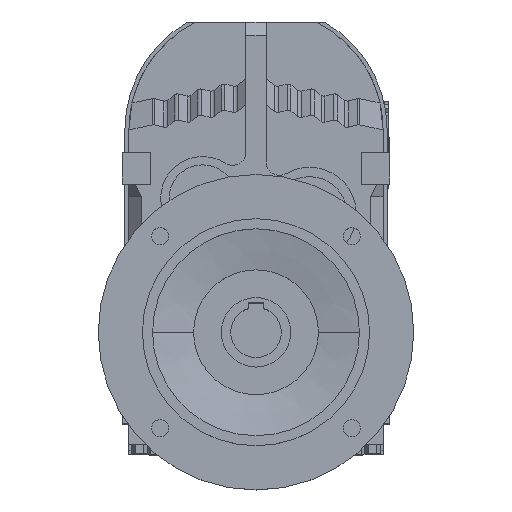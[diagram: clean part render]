
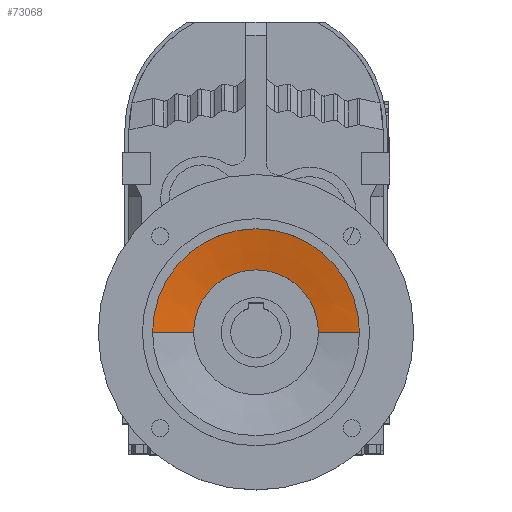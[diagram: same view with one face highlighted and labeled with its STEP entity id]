
A CAD part, top view. The second image highlights one B-rep face of the part: STEP entity #73068.
In plain terms, the highlighted conical face has half-angle 79.54 degrees and reference radius 82 mm.
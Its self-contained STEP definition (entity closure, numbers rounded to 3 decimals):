
#72613 = CYLINDRICAL_SURFACE('',#72614,82.);
#72614 = AXIS2_PLACEMENT_3D('',#72615,#72616,#72617);
#72615 = CARTESIAN_POINT('',(0.,-159.5,0.));
#72616 = DIRECTION('',(0.,0.,-1.));
#72617 = DIRECTION('',(-1.,0.,0.));
#72725 = VERTEX_POINT('',#72726);
#72726 = CARTESIAN_POINT('',(-82.,-159.5,178.5));
#72746 = VERTEX_POINT('',#72747);
#72747 = CARTESIAN_POINT('',(82.,-159.5,178.5));
#72761 = CONICAL_SURFACE('',#72762,82.,1.388);
#72762 = AXIS2_PLACEMENT_3D('',#72763,#72764,#72765);
#72763 = CARTESIAN_POINT('',(0.,-159.5,178.5));
#72764 = DIRECTION('',(0.,0.,1.));
#72765 = DIRECTION('',(1.,0.,0.));
#72818 = EDGE_CURVE('',#72725,#72746,#72819,.T.);
#72819 = SURFACE_CURVE('',#72820,(#72825,#72831),.PCURVE_S1.);
#72820 = CIRCLE('',#72821,82.);
#72821 = AXIS2_PLACEMENT_3D('',#72822,#72823,#72824);
#72822 = CARTESIAN_POINT('',(0.,-159.5,178.5));
#72823 = DIRECTION('',(0.,0.,-1.));
#72824 = DIRECTION('',(-1.,0.,0.));
#72825 = PCURVE('',#72613,#72826);
#72826 = DEFINITIONAL_REPRESENTATION('',(#72827),#72830);
#72827 = B_SPLINE_CURVE_WITH_KNOTS('',1,(#72828,#72829),.UNSPECIFIED.,
  .F.,.F.,(2,2),(0.,3.142),.PIECEWISE_BEZIER_KNOTS.);
#72828 = CARTESIAN_POINT('',(0.,-178.5));
#72829 = CARTESIAN_POINT('',(3.142,-178.5));
#72830 = ( GEOMETRIC_REPRESENTATION_CONTEXT(2) 
PARAMETRIC_REPRESENTATION_CONTEXT() REPRESENTATION_CONTEXT('2D SPACE',''
  ) );
#72831 = PCURVE('',#72832,#72837);
#72832 = CONICAL_SURFACE('',#72833,82.,1.388);
#72833 = AXIS2_PLACEMENT_3D('',#72834,#72835,#72836);
#72834 = CARTESIAN_POINT('',(0.,-159.5,178.5));
#72835 = DIRECTION('',(0.,0.,1.));
#72836 = DIRECTION('',(1.,0.,0.));
#72837 = DEFINITIONAL_REPRESENTATION('',(#72838),#72864);
#72838 = B_SPLINE_CURVE_WITH_KNOTS('',3,(#72839,#72840,#72841,#72842,
    #72843,#72844,#72845,#72846,#72847,#72848,#72849,#72850,#72851,
    #72852,#72853,#72854,#72855,#72856,#72857,#72858,#72859,#72860,
    #72861,#72862,#72863),.UNSPECIFIED.,.F.,.F.,(4,1,1,1,1,1,1,1,1,1,1,1
    ,1,1,1,1,1,1,1,1,1,1,4),(0.,0.143,0.286,
    0.428,0.571,0.714,0.857,
    1.,1.142,1.285,1.428,
    1.571,1.714,1.856,1.999,
    2.142,2.285,2.428,2.57,
    2.713,2.856,2.999,3.142),
  .QUASI_UNIFORM_KNOTS.);
#72839 = CARTESIAN_POINT('',(3.142,0.));
#72840 = CARTESIAN_POINT('',(3.094,0.));
#72841 = CARTESIAN_POINT('',(2.999,0.));
#72842 = CARTESIAN_POINT('',(2.856,0.));
#72843 = CARTESIAN_POINT('',(2.713,0.));
#72844 = CARTESIAN_POINT('',(2.57,0.));
#72845 = CARTESIAN_POINT('',(2.428,0.));
#72846 = CARTESIAN_POINT('',(2.285,0.));
#72847 = CARTESIAN_POINT('',(2.142,0.));
#72848 = CARTESIAN_POINT('',(1.999,0.));
#72849 = CARTESIAN_POINT('',(1.856,0.));
#72850 = CARTESIAN_POINT('',(1.714,0.));
#72851 = CARTESIAN_POINT('',(1.571,0.));
#72852 = CARTESIAN_POINT('',(1.428,0.));
#72853 = CARTESIAN_POINT('',(1.285,0.));
#72854 = CARTESIAN_POINT('',(1.142,0.));
#72855 = CARTESIAN_POINT('',(1.,0.));
#72856 = CARTESIAN_POINT('',(0.857,0.));
#72857 = CARTESIAN_POINT('',(0.714,0.));
#72858 = CARTESIAN_POINT('',(0.571,0.));
#72859 = CARTESIAN_POINT('',(0.428,0.));
#72860 = CARTESIAN_POINT('',(0.286,0.));
#72861 = CARTESIAN_POINT('',(0.143,0.));
#72862 = CARTESIAN_POINT('',(0.048,0.));
#72863 = CARTESIAN_POINT('',(0.,0.));
#72864 = ( GEOMETRIC_REPRESENTATION_CONTEXT(2) 
PARAMETRIC_REPRESENTATION_CONTEXT() REPRESENTATION_CONTEXT('2D SPACE',''
  ) );
#72979 = VERTEX_POINT('',#72980);
#72980 = CARTESIAN_POINT('',(49.5,-159.5,172.5));
#72981 = VERTEX_POINT('',#72982);
#72982 = CARTESIAN_POINT('',(-49.5,-159.5,172.5));
#73030 = EDGE_CURVE('',#72979,#72746,#73031,.T.);
#73031 = SURFACE_CURVE('',#73032,(#73036,#73042),.PCURVE_S1.);
#73032 = LINE('',#73033,#73034);
#73033 = CARTESIAN_POINT('',(82.,-159.5,178.5));
#73034 = VECTOR('',#73035,1.);
#73035 = DIRECTION('',(0.983,0.,0.182));
#73036 = PCURVE('',#72761,#73037);
#73037 = DEFINITIONAL_REPRESENTATION('',(#73038),#73041);
#73038 = B_SPLINE_CURVE_WITH_KNOTS('',1,(#73039,#73040),.UNSPECIFIED.,
  .F.,.F.,(2,2),(-33.049,0.),.PIECEWISE_BEZIER_KNOTS.);
#73039 = CARTESIAN_POINT('',(6.283,-6.));
#73040 = CARTESIAN_POINT('',(6.283,0.));
#73041 = ( GEOMETRIC_REPRESENTATION_CONTEXT(2) 
PARAMETRIC_REPRESENTATION_CONTEXT() REPRESENTATION_CONTEXT('2D SPACE',''
  ) );
#73042 = PCURVE('',#72832,#73043);
#73043 = DEFINITIONAL_REPRESENTATION('',(#73044),#73047);
#73044 = B_SPLINE_CURVE_WITH_KNOTS('',1,(#73045,#73046),.UNSPECIFIED.,
  .F.,.F.,(2,2),(-33.049,0.),.PIECEWISE_BEZIER_KNOTS.);
#73045 = CARTESIAN_POINT('',(0.,-6.));
#73046 = CARTESIAN_POINT('',(0.,0.));
#73047 = ( GEOMETRIC_REPRESENTATION_CONTEXT(2) 
PARAMETRIC_REPRESENTATION_CONTEXT() REPRESENTATION_CONTEXT('2D SPACE',''
  ) );
#73050 = EDGE_CURVE('',#72981,#72725,#73051,.T.);
#73051 = SURFACE_CURVE('',#73052,(#73056,#73062),.PCURVE_S1.);
#73052 = LINE('',#73053,#73054);
#73053 = CARTESIAN_POINT('',(-82.,-159.5,178.5));
#73054 = VECTOR('',#73055,1.);
#73055 = DIRECTION('',(-0.983,0.,
    0.182));
#73056 = PCURVE('',#72761,#73057);
#73057 = DEFINITIONAL_REPRESENTATION('',(#73058),#73061);
#73058 = B_SPLINE_CURVE_WITH_KNOTS('',1,(#73059,#73060),.UNSPECIFIED.,
  .F.,.F.,(2,2),(-33.049,0.),.PIECEWISE_BEZIER_KNOTS.);
#73059 = CARTESIAN_POINT('',(3.142,-6.));
#73060 = CARTESIAN_POINT('',(3.142,0.));
#73061 = ( GEOMETRIC_REPRESENTATION_CONTEXT(2) 
PARAMETRIC_REPRESENTATION_CONTEXT() REPRESENTATION_CONTEXT('2D SPACE',''
  ) );
#73062 = PCURVE('',#72832,#73063);
#73063 = DEFINITIONAL_REPRESENTATION('',(#73064),#73067);
#73064 = B_SPLINE_CURVE_WITH_KNOTS('',1,(#73065,#73066),.UNSPECIFIED.,
  .F.,.F.,(2,2),(-33.049,0.),.PIECEWISE_BEZIER_KNOTS.);
#73065 = CARTESIAN_POINT('',(3.142,-6.));
#73066 = CARTESIAN_POINT('',(3.142,0.));
#73067 = ( GEOMETRIC_REPRESENTATION_CONTEXT(2) 
PARAMETRIC_REPRESENTATION_CONTEXT() REPRESENTATION_CONTEXT('2D SPACE',''
  ) );
#73068 = ADVANCED_FACE('',(#73069),#72832,.F.);
#73069 = FACE_BOUND('',#73070,.F.);
#73070 = EDGE_LOOP('',(#73071,#73072,#73073,#73074));
#73071 = ORIENTED_EDGE('',*,*,#73050,.T.);
#73072 = ORIENTED_EDGE('',*,*,#72818,.T.);
#73073 = ORIENTED_EDGE('',*,*,#73030,.F.);
#73074 = ORIENTED_EDGE('',*,*,#73075,.F.);
#73075 = EDGE_CURVE('',#72981,#72979,#73076,.T.);
#73076 = SURFACE_CURVE('',#73077,(#73082,#73111),.PCURVE_S1.);
#73077 = CIRCLE('',#73078,49.5);
#73078 = AXIS2_PLACEMENT_3D('',#73079,#73080,#73081);
#73079 = CARTESIAN_POINT('',(0.,-159.5,172.5));
#73080 = DIRECTION('',(0.,0.,-1.));
#73081 = DIRECTION('',(-1.,0.,0.));
#73082 = PCURVE('',#72832,#73083);
#73083 = DEFINITIONAL_REPRESENTATION('',(#73084),#73110);
#73084 = B_SPLINE_CURVE_WITH_KNOTS('',3,(#73085,#73086,#73087,#73088,
    #73089,#73090,#73091,#73092,#73093,#73094,#73095,#73096,#73097,
    #73098,#73099,#73100,#73101,#73102,#73103,#73104,#73105,#73106,
    #73107,#73108,#73109),.UNSPECIFIED.,.F.,.F.,(4,1,1,1,1,1,1,1,1,1,1,1
    ,1,1,1,1,1,1,1,1,1,1,4),(0.,0.143,0.286,
    0.428,0.571,0.714,0.857,
    1.,1.142,1.285,1.428,
    1.571,1.714,1.856,1.999,
    2.142,2.285,2.428,2.57,
    2.713,2.856,2.999,3.142),
  .QUASI_UNIFORM_KNOTS.);
#73085 = CARTESIAN_POINT('',(3.142,-6.));
#73086 = CARTESIAN_POINT('',(3.094,-6.));
#73087 = CARTESIAN_POINT('',(2.999,-6.));
#73088 = CARTESIAN_POINT('',(2.856,-6.));
#73089 = CARTESIAN_POINT('',(2.713,-6.));
#73090 = CARTESIAN_POINT('',(2.57,-6.));
#73091 = CARTESIAN_POINT('',(2.428,-6.));
#73092 = CARTESIAN_POINT('',(2.285,-6.));
#73093 = CARTESIAN_POINT('',(2.142,-6.));
#73094 = CARTESIAN_POINT('',(1.999,-6.));
#73095 = CARTESIAN_POINT('',(1.856,-6.));
#73096 = CARTESIAN_POINT('',(1.714,-6.));
#73097 = CARTESIAN_POINT('',(1.571,-6.));
#73098 = CARTESIAN_POINT('',(1.428,-6.));
#73099 = CARTESIAN_POINT('',(1.285,-6.));
#73100 = CARTESIAN_POINT('',(1.142,-6.));
#73101 = CARTESIAN_POINT('',(1.,-6.));
#73102 = CARTESIAN_POINT('',(0.857,-6.));
#73103 = CARTESIAN_POINT('',(0.714,-6.));
#73104 = CARTESIAN_POINT('',(0.571,-6.));
#73105 = CARTESIAN_POINT('',(0.428,-6.));
#73106 = CARTESIAN_POINT('',(0.286,-6.));
#73107 = CARTESIAN_POINT('',(0.143,-6.));
#73108 = CARTESIAN_POINT('',(0.048,-6.));
#73109 = CARTESIAN_POINT('',(0.,-6.));
#73110 = ( GEOMETRIC_REPRESENTATION_CONTEXT(2) 
PARAMETRIC_REPRESENTATION_CONTEXT() REPRESENTATION_CONTEXT('2D SPACE',''
  ) );
#73111 = PCURVE('',#73112,#73117);
#73112 = CYLINDRICAL_SURFACE('',#73113,49.5);
#73113 = AXIS2_PLACEMENT_3D('',#73114,#73115,#73116);
#73114 = CARTESIAN_POINT('',(0.,-159.5,0.));
#73115 = DIRECTION('',(0.,0.,-1.));
#73116 = DIRECTION('',(-1.,0.,0.));
#73117 = DEFINITIONAL_REPRESENTATION('',(#73118),#73121);
#73118 = B_SPLINE_CURVE_WITH_KNOTS('',1,(#73119,#73120),.UNSPECIFIED.,
  .F.,.F.,(2,2),(0.,3.142),.PIECEWISE_BEZIER_KNOTS.);
#73119 = CARTESIAN_POINT('',(0.,-172.5));
#73120 = CARTESIAN_POINT('',(3.142,-172.5));
#73121 = ( GEOMETRIC_REPRESENTATION_CONTEXT(2) 
PARAMETRIC_REPRESENTATION_CONTEXT() REPRESENTATION_CONTEXT('2D SPACE',''
  ) );
